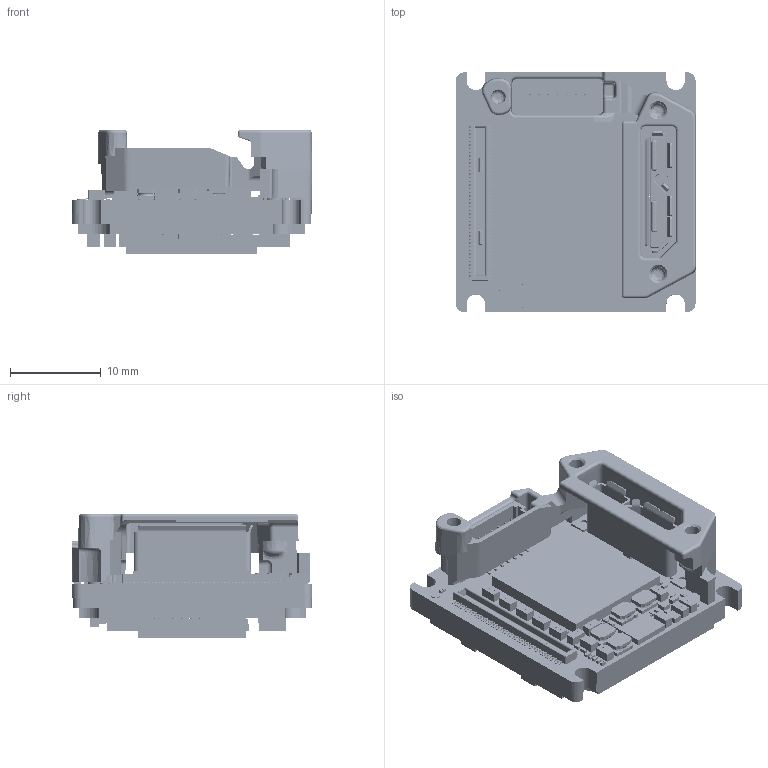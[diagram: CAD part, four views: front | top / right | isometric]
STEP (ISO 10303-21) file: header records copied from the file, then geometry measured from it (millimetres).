
FILE_DESCRIPTION (( 'STEP AP214' ), '1' );
FILE_NAME ('Alvium-USB180-Bare-Board-IMX548.STEP', '2022-11-17T11:00:09', ( '' ), ( '' ), 'SwSTEP 2.0', 'SolidWorks 2021', '' );
FILE_SCHEMA (( 'AUTOMOTIVE_DESIGN' ));
Length unit declared in the file: millimetre
Products named in the file (1): Alvium-USB180-Bare-Board-IMX548
Bounding box: 26.48 x 26.45 x 13.67 mm (x, y, z)
Volume: 3959.9 mm3; surface area: 5939.5 mm2
Topology: 194 solids, 197 shells, 11772 faces, 29573 edges, 19154 vertices
Faces by surface type: plane 6180, bspline 4480, cylinder 992, cone 46, torus 40, sphere 34
Entity records: 733176 total; most frequent: CARTESIAN_POINT 350086, ORIENTED_EDGE 59098, DIRECTION 37089, EDGE_CURVE 29549, VERTEX_POINT 19177, VECTOR 18369, LINE 18369, EDGE_LOOP 12794
